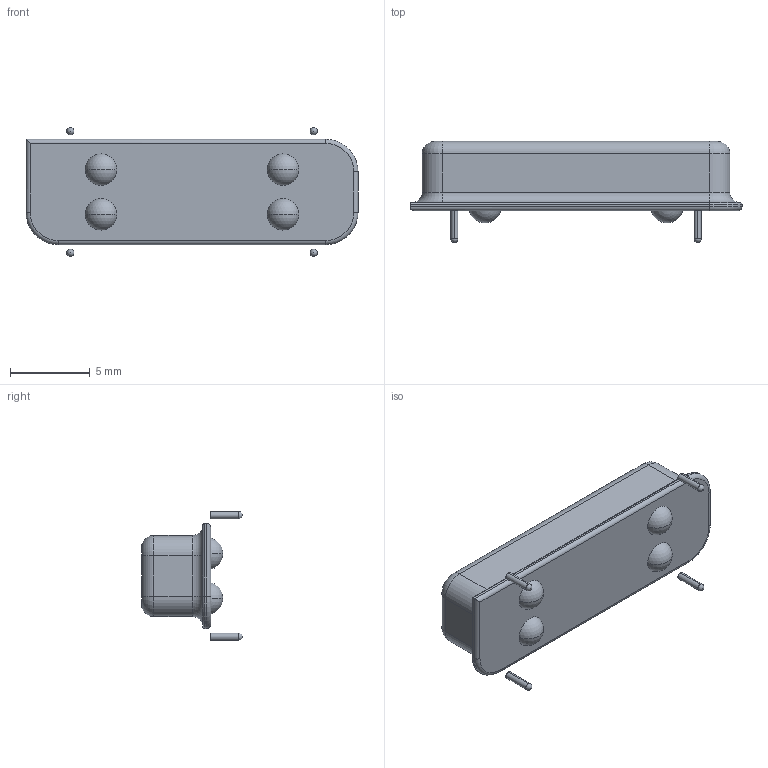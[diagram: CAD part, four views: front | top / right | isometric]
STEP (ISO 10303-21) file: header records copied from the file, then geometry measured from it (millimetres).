
FILE_DESCRIPTION (( 'STEP AP214' ), '1' );
FILE_NAME ( 'OSC762W45P254L2080H510Q4_14P.STEP', '2014-04-11T12:31:22', ( '' ), ( '' ), 'FPX Expert 2013', 'PCB Libraries', '' );
FILE_SCHEMA (( 'AUTOMOTIVE_DESIGN' ));
Length unit declared in the file: millimetre
Products named in the file (1): OSC762W45P254L2080H510Q4_14P
Bounding box: 20.8 x 6.33 x 8.07 mm (x, y, z)
Volume: 442.1 mm3; surface area: 456.6 mm2
Topology: 5 solids, 5 shells, 72 faces, 152 edges, 90 vertices
Faces by surface type: cylinder 31, plane 15, torus 14, sphere 12
Entity records: 2124 total; most frequent: DIRECTION 369, CARTESIAN_POINT 301, ORIENTED_EDGE 280, AXIS2_PLACEMENT_3D 158, EDGE_CURVE 140, CIRCLE 85, VERTEX_POINT 82, STYLED_ITEM 78
